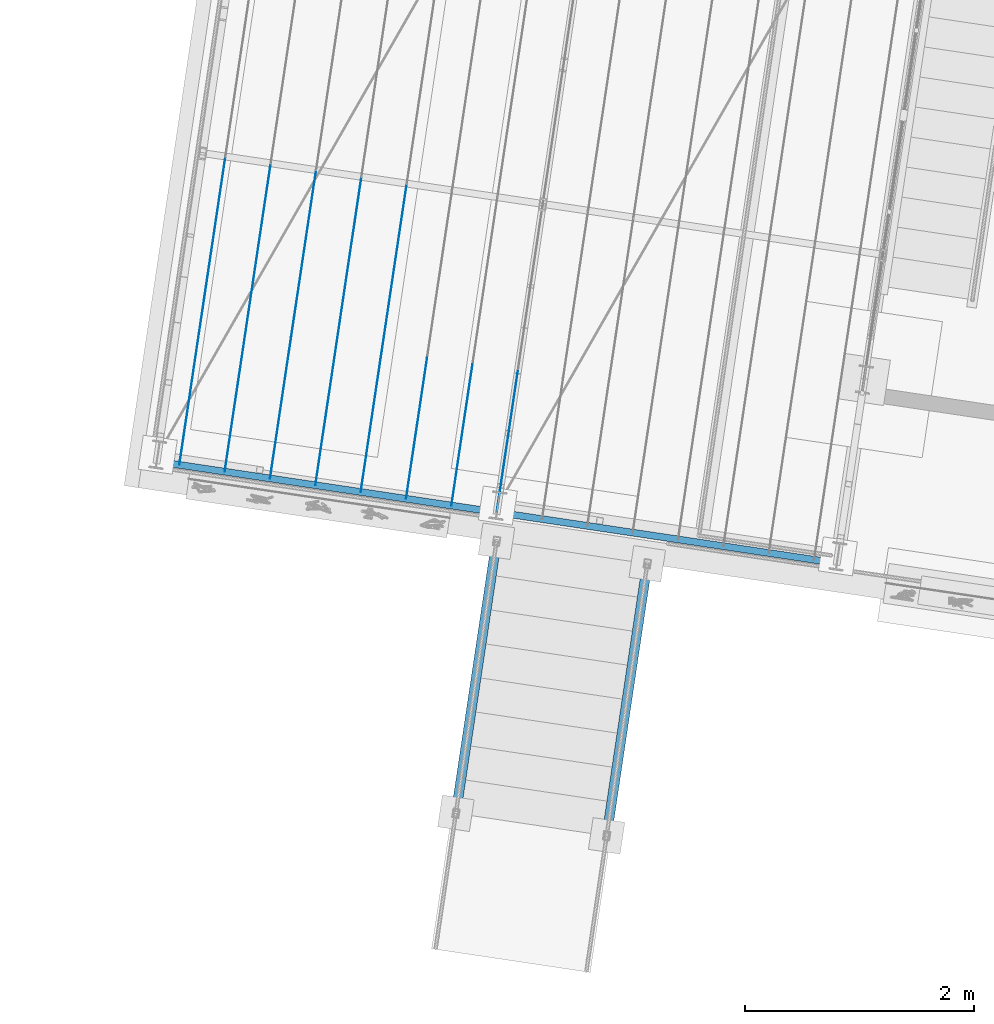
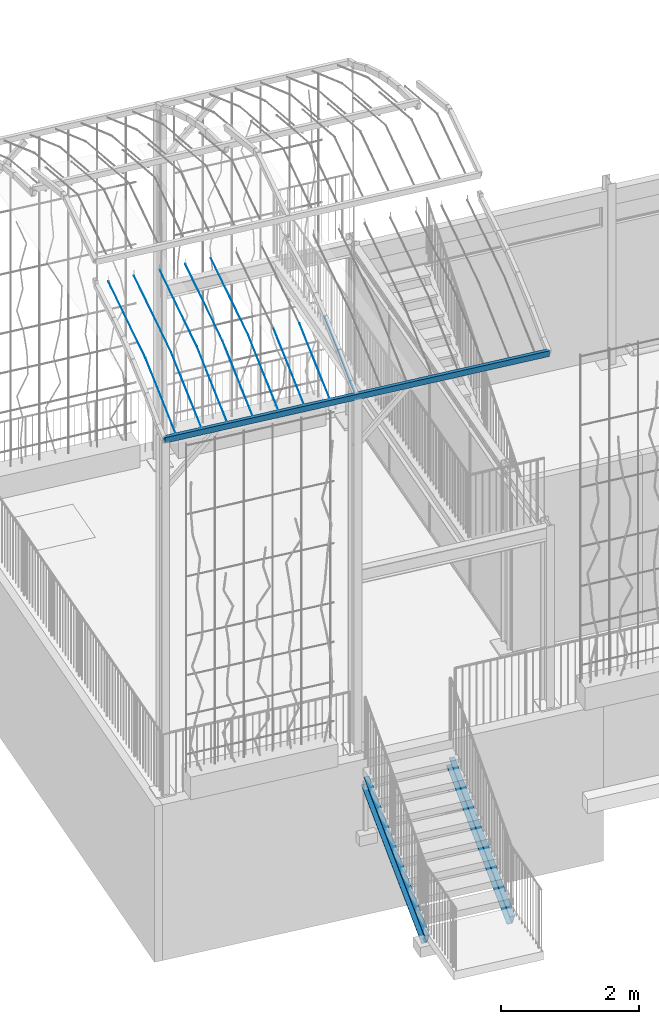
# One storey, part 13 of 142: 15 members, 1 beam, 2 elements without a shape of their own.
"""IFC4 building model written with IfcOpenShell, lengths in metres."""

from ifc_helpers import new_model, si_unit, direction, frame, origin_with_axes, place, context, subcontext, project, spatial, polyline, hollow_rectangle, circle, outline, extrude, material, material_profile, profile_set, profile_usage, type_object, element, aggregate, save


model = new_model("IFC4")

# Units and contexts
model_context = context("Model", 3, precision=1e-05, world=origin_with_axes(), true_north=direction((0.0, 1.0)))
body_context = subcontext(model_context, "Body", "Model", "MODEL_VIEW")
ifc_project = project(units=[si_unit("VOLUMEUNIT", "CUBIC_METRE"), si_unit("LENGTHUNIT", "METRE"), si_unit("AREAUNIT", "SQUARE_METRE")], contexts=[model_context])

# Site, building, storey
site_placement = place(None, origin_with_axes())
site = spatial("IfcSite", under=ifc_project, at=site_placement, Name="Lares · Rua das Mercês · artigo 4771")
building_placement = place(site_placement, frame((12.0, 10.2, 13.9), z_axis=(0.0, 0.0, 1.0), x_axis=(0.989015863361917, -0.147809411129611, 0.0)))
building = spatial("IfcBuilding", under=site, at=building_placement, Name="Casa Sobreposta")
storey_placement = place(building_placement, origin_with_axes())
storey = spatial("IfcBuildingStorey", under=building, at=storey_placement, Name="00 · Habitação e estacionamento", Elevation=13.9)

# Stair, members
stair_placement = place(storey_placement, origin_with_axes())
stair = element("IfcStair", 1, at=stair_placement, inside=storey, Name="Jardim · acesso do terraço", PredefinedType="STRAIGHT_RUN_STAIR")
ifc_material_1 = material(Name="Aço pintado / Stahl lackiert", Category="steel")
ifc_material_profile_1 = material_profile(ifc_material_1, outline(polyline([(-0.0425, -0.12), (0.0425, -0.12), (0.0425, -0.1102), (-0.0325, -0.1102), (-0.0325, 0.1102), (0.0425, 0.1102), (0.0425, 0.12), (-0.0425, 0.12), (-0.0425, -0.12)])))
ifc_profile_set_1 = profile_set([ifc_material_profile_1], Name="C240")
ifc_profile_usage_1 = profile_usage(ifc_profile_set_1)
member_type_1 = type_object("IfcMemberType", Name="C240 / steel", PredefinedType="NOTDEFINED", material=ifc_profile_set_1)
member_1_placement = place(stair_placement, frame((-2.965, -1.75, -0.416666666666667), z_axis=(0.0, -0.886409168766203, -0.46290256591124), x_axis=(-1.0, 0.0, 0.0)))
member_1 = element("IfcMember", 2, at=member_1_placement, type_object=member_type_1, material=ifc_profile_usage_1, Name="Jardim · longarina", context=body_context, shape_type="SweptSolid", body=[
    extrude(outline(polyline([(-0.0425, -0.12), (0.0425, -0.12), (0.0425, -0.1102), (-0.0325, -0.1102), (-0.0325, 0.1102), (0.0425, 0.1102), (0.0425, 0.12), (-0.0425, 0.12), (-0.0425, -0.12)])), origin_with_axes(), (0.0, 0.0, 1.0), 2.70755322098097),
])
ifc_profile_usage_2 = profile_usage(ifc_profile_set_1)
member_2_placement = place(stair_placement, frame((-1.635, -1.75, -0.416666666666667), z_axis=(0.0, -0.886409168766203, -0.46290256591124), x_axis=(-1.0, 0.0, 0.0)))
member_2 = element("IfcMember", 3, at=member_2_placement, type_object=member_type_1, material=ifc_profile_usage_2, Name="Jardim · longarina", context=body_context, shape_type="SweptSolid", body=[
    extrude(outline(polyline([(-0.0425, -0.12), (0.0425, -0.12), (0.0425, -0.1102), (-0.0325, -0.1102), (-0.0325, 0.1102), (0.0425, 0.1102), (0.0425, 0.12), (-0.0425, 0.12), (-0.0425, -0.12)])), origin_with_axes(), (0.0, 0.0, 1.0), 2.70755322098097),
])
aggregate(stair, [member_1, member_2])

# Assembly, beam, members
assembly_placement = place(storey_placement, origin_with_axes())
assembly = element("IfcElementAssembly", 4, at=assembly_placement, inside=storey, Name="Pérgola · prolongamento da estufa 6 m", ObjectType="PERGOLA_GREENHOUSE_EXTENSION", PredefinedType="USERDEFINED")
ifc_material_profile_2 = material_profile(ifc_material_1, hollow_rectangle(XDim=0.06, YDim=0.1, WallThickness=0.004))
ifc_profile_set_2 = profile_set([ifc_material_profile_2], Name="RHS100x60x4")
ifc_profile_usage_3 = profile_usage(ifc_profile_set_2)
beam_type = type_object("IfcBeamType", Name="RHS100x60x4 / steel", PredefinedType="NOTDEFINED", material=ifc_profile_set_2)
beam_placement = place(assembly_placement, frame((-6.0, -1.5, 6.23430000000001), z_axis=(1.0, 0.0, 0.0), x_axis=(0.0, -1.0, 0.0)))
beam = element("IfcBeam", 5, at=beam_placement, type_object=beam_type, material=ifc_profile_usage_3, Name="Pérgola · terça", context=body_context, shape_type="SweptSolid", body=[
    extrude(hollow_rectangle(XDim=0.06, YDim=0.1, WallThickness=0.004), origin_with_axes(), (0.0, 0.0, 1.0), 6.0),
])
ifc_material_2 = material(Name="Aço galvanizado / Stahl verzinkt", Category="steel")
ifc_material_profile_3 = material_profile(ifc_material_2, circle(Radius=0.002))
ifc_profile_set_3 = profile_set([ifc_material_profile_3], Name="D0.004")
ifc_profile_usage_4 = profile_usage(ifc_profile_set_3)
member_type_2 = type_object("IfcMemberType", Name="D0.004 / galvanized", PredefinedType="NOTDEFINED", material=ifc_profile_set_3)
member_3_placement = place(assembly_placement, frame((-5.8, -1.5, 6.23430000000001), z_axis=(0.0, 0.905876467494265, 0.423541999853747), x_axis=(1.0, 0.0, 0.0)))
member_3 = element("IfcMember", 6, at=member_3_placement, type_object=member_type_2, material=ifc_profile_usage_4, Name="Pérgola · fio para trepadeiras", context=body_context, shape_type="SweptSolid", body=[
    extrude(circle(Radius=0.002), origin_with_axes(), (0.0, 0.0, 1.0), 1.37271642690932),
])
ifc_profile_usage_5 = profile_usage(ifc_profile_set_3)
member_4_placement = place(assembly_placement, frame((-5.8, -0.256488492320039, 6.81570306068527), z_axis=(0.0, 0.96535496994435, 0.260940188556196), x_axis=(1.0, 0.0, 0.0)))
member_4 = element("IfcMember", 7, at=member_4_placement, type_object=member_type_2, material=ifc_profile_usage_5, Name="Pérgola · fio para trepadeiras", context=body_context, shape_type="SweptSolid", body=[
    extrude(circle(Radius=0.002), origin_with_axes(), (0.0, 0.0, 1.0), 1.52368621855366),
])
ifc_profile_usage_6 = profile_usage(ifc_profile_set_3)
member_5_placement = place(assembly_placement, frame((-5.4, -1.5, 6.23430000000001), z_axis=(0.0, 0.905876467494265, 0.423541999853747), x_axis=(1.0, 0.0, 0.0)))
member_5 = element("IfcMember", 8, at=member_5_placement, type_object=member_type_2, material=ifc_profile_usage_6, Name="Pérgola · fio para trepadeiras", context=body_context, shape_type="SweptSolid", body=[
    extrude(circle(Radius=0.002), origin_with_axes(), (0.0, 0.0, 1.0), 1.37271642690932),
])
ifc_profile_usage_7 = profile_usage(ifc_profile_set_3)
member_6_placement = place(assembly_placement, frame((-5.4, -0.256488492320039, 6.81570306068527), z_axis=(0.0, 0.96535496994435, 0.260940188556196), x_axis=(1.0, 0.0, 0.0)))
member_6 = element("IfcMember", 9, at=member_6_placement, type_object=member_type_2, material=ifc_profile_usage_7, Name="Pérgola · fio para trepadeiras", context=body_context, shape_type="SweptSolid", body=[
    extrude(circle(Radius=0.002), origin_with_axes(), (0.0, 0.0, 1.0), 1.52368621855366),
])
ifc_profile_usage_8 = profile_usage(ifc_profile_set_3)
member_7_placement = place(assembly_placement, frame((-5.0, -1.5, 6.23430000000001), z_axis=(0.0, 0.905876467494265, 0.423541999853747), x_axis=(1.0, 0.0, 0.0)))
member_7 = element("IfcMember", 10, at=member_7_placement, type_object=member_type_2, material=ifc_profile_usage_8, Name="Pérgola · fio para trepadeiras", context=body_context, shape_type="SweptSolid", body=[
    extrude(circle(Radius=0.002), origin_with_axes(), (0.0, 0.0, 1.0), 1.37271642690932),
])
ifc_profile_usage_9 = profile_usage(ifc_profile_set_3)
member_8_placement = place(assembly_placement, frame((-5.0, -0.256488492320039, 6.81570306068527), z_axis=(0.0, 0.96535496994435, 0.260940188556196), x_axis=(1.0, 0.0, 0.0)))
member_8 = element("IfcMember", 11, at=member_8_placement, type_object=member_type_2, material=ifc_profile_usage_9, Name="Pérgola · fio para trepadeiras", context=body_context, shape_type="SweptSolid", body=[
    extrude(circle(Radius=0.002), origin_with_axes(), (0.0, 0.0, 1.0), 1.52368621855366),
])
ifc_profile_usage_10 = profile_usage(ifc_profile_set_3)
member_9_placement = place(assembly_placement, frame((-4.6, -1.5, 6.23430000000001), z_axis=(0.0, 0.905876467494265, 0.423541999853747), x_axis=(1.0, 0.0, 0.0)))
member_9 = element("IfcMember", 12, at=member_9_placement, type_object=member_type_2, material=ifc_profile_usage_10, Name="Pérgola · fio para trepadeiras", context=body_context, shape_type="SweptSolid", body=[
    extrude(circle(Radius=0.002), origin_with_axes(), (0.0, 0.0, 1.0), 1.37271642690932),
])
ifc_profile_usage_11 = profile_usage(ifc_profile_set_3)
member_10_placement = place(assembly_placement, frame((-4.6, -0.256488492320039, 6.81570306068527), z_axis=(0.0, 0.96535496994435, 0.260940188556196), x_axis=(1.0, 0.0, 0.0)))
member_10 = element("IfcMember", 13, at=member_10_placement, type_object=member_type_2, material=ifc_profile_usage_11, Name="Pérgola · fio para trepadeiras", context=body_context, shape_type="SweptSolid", body=[
    extrude(circle(Radius=0.002), origin_with_axes(), (0.0, 0.0, 1.0), 1.52368621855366),
])
ifc_profile_usage_12 = profile_usage(ifc_profile_set_3)
member_11_placement = place(assembly_placement, frame((-4.2, -1.5, 6.23430000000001), z_axis=(0.0, 0.905876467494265, 0.423541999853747), x_axis=(1.0, 0.0, 0.0)))
member_11 = element("IfcMember", 14, at=member_11_placement, type_object=member_type_2, material=ifc_profile_usage_12, Name="Pérgola · fio para trepadeiras", context=body_context, shape_type="SweptSolid", body=[
    extrude(circle(Radius=0.002), origin_with_axes(), (0.0, 0.0, 1.0), 1.37271642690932),
])
ifc_profile_usage_13 = profile_usage(ifc_profile_set_3)
member_12_placement = place(assembly_placement, frame((-4.2, -0.256488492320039, 6.81570306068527), z_axis=(0.0, 0.96535496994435, 0.260940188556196), x_axis=(1.0, 0.0, 0.0)))
member_12 = element("IfcMember", 15, at=member_12_placement, type_object=member_type_2, material=ifc_profile_usage_13, Name="Pérgola · fio para trepadeiras", context=body_context, shape_type="SweptSolid", body=[
    extrude(circle(Radius=0.002), origin_with_axes(), (0.0, 0.0, 1.0), 1.52368621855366),
])
ifc_profile_usage_14 = profile_usage(ifc_profile_set_3)
member_13_placement = place(assembly_placement, frame((-3.8, -1.5, 6.23430000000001), z_axis=(0.0, 0.905876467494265, 0.423541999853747), x_axis=(1.0, 0.0, 0.0)))
member_13 = element("IfcMember", 16, at=member_13_placement, type_object=member_type_2, material=ifc_profile_usage_14, Name="Pérgola · fio para trepadeiras", context=body_context, shape_type="SweptSolid", body=[
    extrude(circle(Radius=0.002), origin_with_axes(), (0.0, 0.0, 1.0), 1.37271642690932),
])
ifc_profile_usage_15 = profile_usage(ifc_profile_set_3)
member_14_placement = place(assembly_placement, frame((-3.4, -1.5, 6.23430000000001), z_axis=(0.0, 0.905876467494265, 0.423541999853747), x_axis=(1.0, 0.0, 0.0)))
member_14 = element("IfcMember", 17, at=member_14_placement, type_object=member_type_2, material=ifc_profile_usage_15, Name="Pérgola · fio para trepadeiras", context=body_context, shape_type="SweptSolid", body=[
    extrude(circle(Radius=0.002), origin_with_axes(), (0.0, 0.0, 1.0), 1.37271642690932),
])
ifc_profile_usage_16 = profile_usage(ifc_profile_set_3)
member_15_placement = place(assembly_placement, frame((-3.0, -1.5, 6.23430000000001), z_axis=(0.0, 0.905876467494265, 0.423541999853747), x_axis=(1.0, 0.0, 0.0)))
member_15 = element("IfcMember", 18, at=member_15_placement, type_object=member_type_2, material=ifc_profile_usage_16, Name="Pérgola · fio para trepadeiras", context=body_context, shape_type="SweptSolid", body=[
    extrude(circle(Radius=0.002), origin_with_axes(), (0.0, 0.0, 1.0), 1.37271642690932),
])
aggregate(assembly, [beam, member_3, member_4, member_5, member_6, member_7, member_8, member_9, member_10, member_11, member_12, member_13, member_14, member_15])

save(model, "model.ifc")
